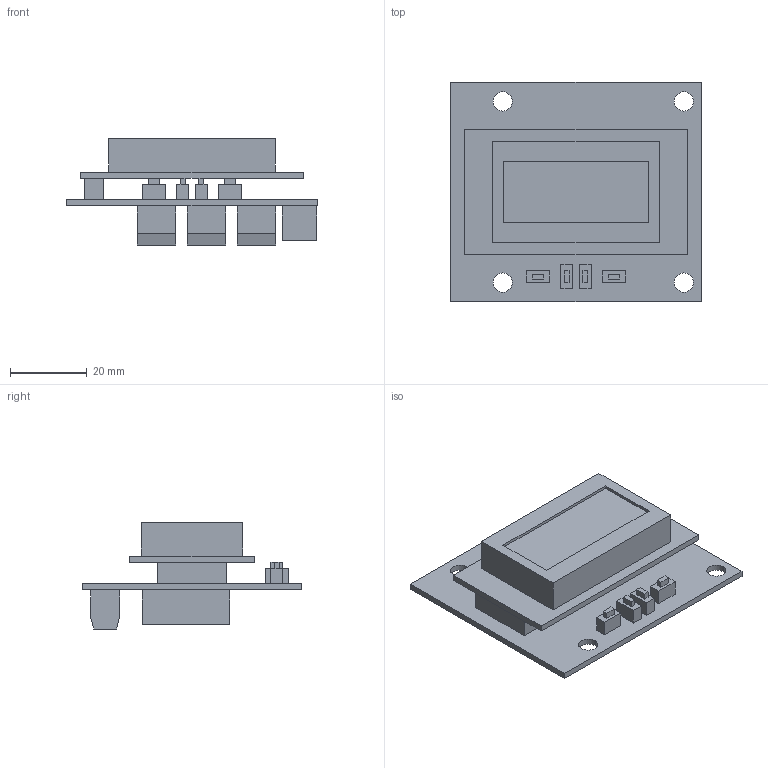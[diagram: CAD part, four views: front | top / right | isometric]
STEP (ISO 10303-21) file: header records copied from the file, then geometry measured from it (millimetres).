
FILE_DESCRIPTION (( 'STEP AP203' ), '1' );
FILE_NAME ('F-Controller.STEP', '2017-01-29T12:32:34', ( '' ), ( '' ), 'SwSTEP 2.0', 'SolidWorks 2015', '' );
FILE_SCHEMA (( 'CONFIG_CONTROL_DESIGN' ));
Length unit declared in the file: millimetre
Products named in the file (1): F-Controller
Bounding box: 65.15 x 57 x 27.6 mm (x, y, z)
Volume: 21922.7 mm3; surface area: 15909.1 mm2
Topology: 1 solids, 1 shells, 183 faces, 438 edges, 292 vertices
Faces by surface type: plane 163, cylinder 20
Entity records: 5325 total; most frequent: CARTESIAN_POINT 914, ORIENTED_EDGE 876, DIRECTION 846, EDGE_CURVE 438, LINE 398, VECTOR 398, VERTEX_POINT 292, EDGE_LOOP 226
